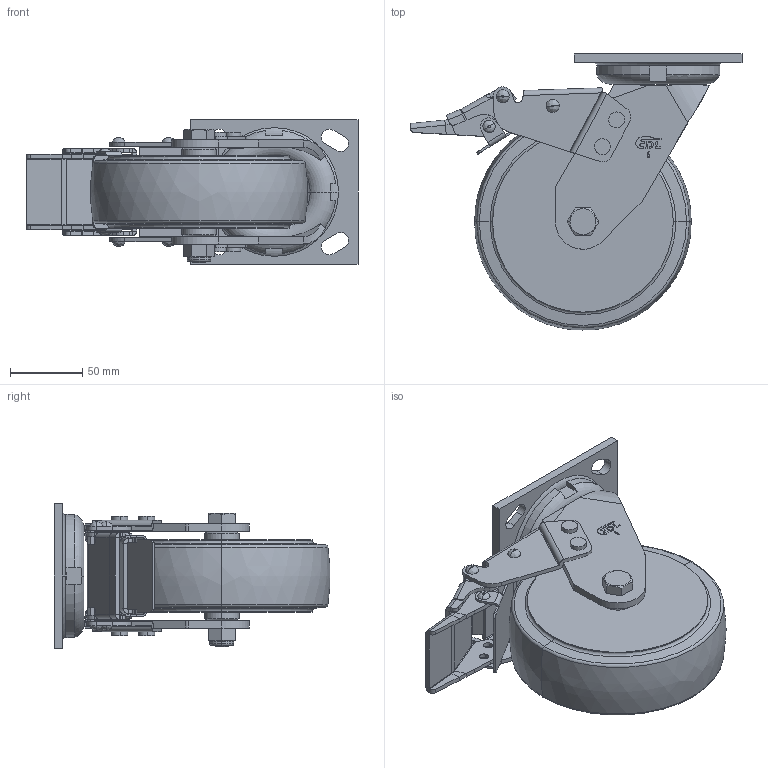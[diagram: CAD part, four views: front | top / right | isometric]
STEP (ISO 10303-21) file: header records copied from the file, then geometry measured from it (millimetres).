
FILE_DESCRIPTION((''),'2;1');
FILE_NAME('73126L-736-86_ASM','2020-11-28T',('lenovo'),(''),'PRO/ENGINEER BY PARAMETRIC TECHNOLOGY CORPORATION, 2010280','PRO/ENGINEER BY PARAMETRIC TECHNOLOGY CORPORATION, 2010280','');
FILE_SCHEMA(('CONFIG_CONTROL_DESIGN'));
Length unit declared in the file: millimetre
Products named in the file (12): 7310-201; 7310-211; 7316-355; 7316-321_ASM; 7316-525; 700-142; 7336-401; 700-141; 736-86; 7010-33; 7010-34; 73126L-736-86_ASM
Assembly tree (11 placements, depth 3):
  73126L-736-86_ASM
    7310-201
    7316-321_ASM
      7310-211
      7316-355
    7316-525
    700-142
    7336-401
    700-141
    736-86
    7010-33
    7010-34
Bounding box: 229.64 x 190.83 x 100 mm (x, y, z)
Volume: 1110570.9 mm3; surface area: 183515.5 mm2
Topology: 11 solids, 11 shells, 617 faces, 1493 edges, 920 vertices
Faces by surface type: plane 315, cylinder 166, torus 62, bspline 52, cone 22
Entity records: 20328 total; most frequent: CARTESIAN_POINT 5698, DIRECTION 3003, ORIENTED_EDGE 2986, EDGE_CURVE 1493, AXIS2_PLACEMENT_3D 1066, VERTEX_POINT 920, VECTOR 871, LINE 871
